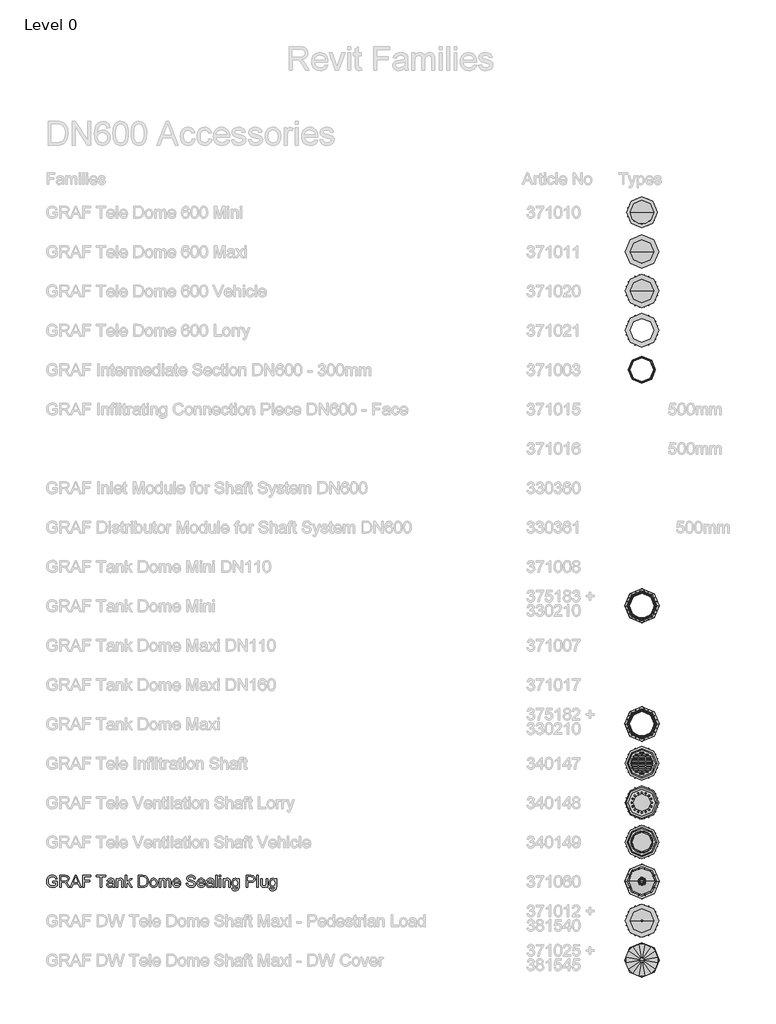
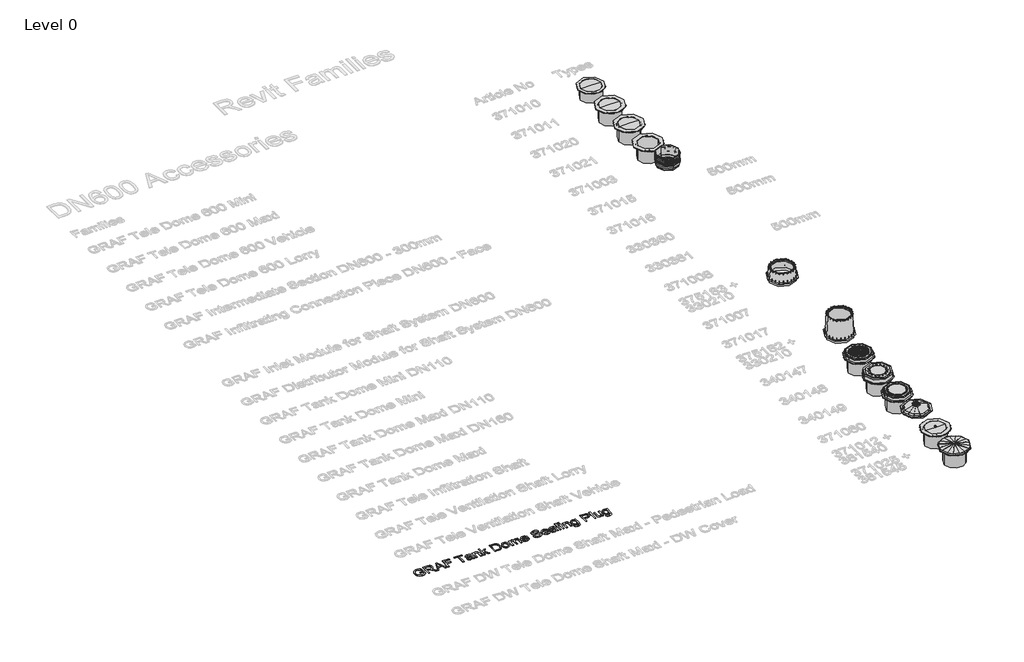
# One storey, part 1 of 25: 14 proxies.
"""IFC4 building model written with IfcOpenShell, lengths in millimetres."""

from ifc_helpers import new_model, si_unit, origin, origin_with_axes, place, context, project, spatial, polyline, outline, extrude, transform, mapped, element, save
from components import specialty_equipment_5184973a, specialty_equipment_2c5f0238, specialty_equipment_1d14676d, specialty_equipment_e8b2a2d0, specialty_equipment_d7f88c08, specialty_equipment_90b081b5, proxy_600_mini_8c9d897d, dome_600_vehicle_504724ee, infiltration_shaft_7ea02f98, intermediate_section_dn600_300mm_32245d74, tank_dome_mini_c82e10f8, tank_dome_sealing_plug_fa8a0619, tank_dome_sealing_plug_3985acf3, ventilation_shaft_vehicle_b4d13a4b

model = new_model("IFC4")

# Units and contexts
model_context = context("Model", 3, world=origin())
ifc_project = project(units=[si_unit("LENGTHUNIT", "METRE", prefix="MILLI")], contexts=[model_context])

# Site, building, storey
site = spatial("IfcSite", under=ifc_project)
building = spatial("IfcBuilding", under=site)
storey = spatial("IfcBuildingStorey", under=building, Name="Level 0", Elevation=0.0)

# Proxies
placement = place(None, origin())
specialty_equipment_shape = specialty_equipment_5184973a(model_context)
element("IfcBuildingElementProxy", 1, Name="GRAF Tele Dome 600 Maxi : 600 Maxi", ObjectType="GRAF Tele Dome 600 Maxi : 600 Maxi", at=placement, inside=storey, context=model_context, shape_type="MappedRepresentation", body=[
    mapped(specialty_equipment_shape, transform((-270.8351154, 6948.6272801, 0.0), x_axis=(1.0, 0.0, 0.0), y_axis=(0.0, 1.0, 0.0), z_axis=(0.0, 0.0, 1.0))),
])
specialty_equipment_2_shape = specialty_equipment_2c5f0238(model_context)
element("IfcBuildingElementProxy", 2, Name="GRAF Tele Dome 600 Lorry : Dome 600 Lorry", ObjectType="GRAF Tele Dome 600 Lorry : Dome 600 Lorry", at=placement, inside=storey, context=model_context, shape_type="MappedRepresentation", body=[
    mapped(specialty_equipment_2_shape, transform((-270.8351154, 4949.0232018, 0.0), x_axis=(1.0, 0.0, 0.0), y_axis=(0.0, 1.0, 0.0), z_axis=(0.0, 0.0, 1.0))),
])
specialty_equipment_3_shape = specialty_equipment_1d14676d(model_context)
element("IfcBuildingElementProxy", 3, Name="GRAF Tele Ventilation Shaft Lorry : Ventilation Shaft Lorry", ObjectType="GRAF Tele Ventilation Shaft Lorry : Ventilation Shaft Lorry", at=placement, inside=storey, context=model_context, shape_type="MappedRepresentation", body=[
    mapped(specialty_equipment_3_shape, transform((-270.8351154, -7050.9767982, 0.0), x_axis=(1.0, 0.0, 0.0), y_axis=(0.0, 1.0, 0.0), z_axis=(0.0, 0.0, 1.0))),
])
specialty_equipment_4_shape = specialty_equipment_e8b2a2d0(model_context)
element("IfcBuildingElementProxy", 4, Name="GRAF Tank Dome Maxi : Tank Dome Maxi", ObjectType="GRAF Tank Dome Maxi : Tank Dome Maxi", at=placement, inside=storey, context=model_context, shape_type="MappedRepresentation", body=[
    mapped(specialty_equipment_4_shape, transform((-270.8351154, -5050.9767982, 0.0), x_axis=(1.0, 0.0, 0.0), y_axis=(0.0, 1.0, 0.0), z_axis=(0.0, 0.0, 1.0))),
])
specialty_equipment_5_shape = specialty_equipment_d7f88c08(model_context)
element("IfcBuildingElementProxy", 5, Name="GRAF DW Tele Dome Shaft Maxi - Pedestrian Load : DW Tele Dome Shaft Maxi - Pedestrian Load", ObjectType="GRAF DW Tele Dome Shaft Maxi - Pedestrian Load : DW Tele Dome Shaft Maxi - Pedestrian Load", at=placement, inside=storey, context=model_context, shape_type="MappedRepresentation", body=[
    mapped(specialty_equipment_5_shape, transform((-270.8351154, -10050.9935269, 0.0), x_axis=(1.0, 0.0, 0.0), y_axis=(0.0, 1.0, 0.0), z_axis=(0.0, 0.0, 1.0))),
])
specialty_equipment_6_shape = specialty_equipment_90b081b5(model_context)
element("IfcBuildingElementProxy", 6, Name="GRAF DW Tele Dome Shaft Maxi - Cover : DW Tele Dome Shaft Maxi - Cover", ObjectType="GRAF DW Tele Dome Shaft Maxi - Cover : DW Tele Dome Shaft Maxi - Cover", at=placement, inside=storey, context=model_context, shape_type="MappedRepresentation", body=[
    mapped(specialty_equipment_6_shape, transform((-270.8351154, -11050.9935269, 0.0), x_axis=(1.0, 0.0, 0.0), y_axis=(0.0, 1.0, 0.0), z_axis=(0.0, 0.0, 1.0))),
])
element("IfcBuildingElementProxy", 7, Name="300mm Arial", ObjectType="300mm Arial", at=placement, inside=storey, context=model_context, shape_type="SweptSolid", body=[
    extrude(outline(polyline([(-15240.9940387, -9083.2545597), (-15240.9940387, -9045.5834434), (-15118.5629107, -9045.5834434), (-15118.5629107, -9158.2289103), (-15148.3153671, -9178.9222726), (-15179.0059225, -9193.7663111), (-15210.5610007, -9202.7058436), (-15242.9070251, -9205.6856877), (-15285.1674693, -9200.949207), (-15323.3628175, -9186.739765), (-15355.0926395, -9163.5540022), (-15377.9565055, -9131.8885595), (-15391.7796715, -9093.9047435), (-15396.3873935, -9051.7638609), (-15391.7980656, -9009.3194757), (-15378.0300819, -8969.8365406), (-15355.6536596, -8936.717964), (-15325.2390156, -8913.3666543), (-15288.1932987, -8899.5158972), (-15245.9236575, -8894.8989782), (-15214.8928112, -8897.5753197), (-15186.9889618, -8905.6043443), (-15163.4904994, -8918.4066377), (-15145.6758138, -8935.4027859), (-15132.4964413, -8957.4113262), (-15122.9039183, -8985.2507962), (-15157.6319786, -8995.0364573), (-15165.3850917, -8975.1800266), (-15174.8120678, -8960.1980323), (-15187.2832674, -8948.9040551), (-15204.169051, -8940.1116754), (-15224.3013932, -8934.4554897), (-15246.5122687, -8932.5700945), (-15272.5123287, -8934.6026425), (-15294.7415982, -8940.7002866), (-15313.1173039, -8950.0996716), (-15327.5566722, -8962.0374423), (-15346.9440533, -8991.0633317), (-15355.7732212, -9019.50061), (-15358.7162772, -9050.2187566), (-15355.175413, -9086.2436009), (-15344.5528204, -9115.8856927), (-15327.1703961, -9138.9334997), (-15303.3500369, -9155.1754898), (-15275.4737787, -9164.804801), (-15245.9236575, -9168.0145714), (-15219.831627, -9165.5957473), (-15194.3833899, -9158.3392749), (-15172.2828791, -9148.3420817), (-15156.234027, -9137.701095), (-15156.234027, -9083.2545597), (-15240.9940387, -9083.2545597)])), origin_with_axes(), (0.0, 0.0, 1.0), 10.0),
    extrude(outline(polyline([(-15057.3473467, -9200.9767982), (-15057.3473467, -8899.6078677), (-14927.4850024, -8899.6078677), (-14892.5821982, -8901.6404158), (-14867.1891434, -8907.7380598), (-14848.6294968, -8918.9952489), (-14834.2269167, -8936.5064318), (-14824.9838815, -8958.2206666), (-14821.9028698, -8982.087011), (-14827.0072325, -9011.7750881), (-14842.3203206, -9036.3863935), (-14853.9200997, -9046.4157764), (-14868.3019865, -9054.4310054), (-14905.4120827, -9064.4190016), (-14884.0013506, -9080.532233), (-14853.467145, -9119.3069952), (-14803.2144645, -9200.9767982), (-14846.9924219, -9200.9767982), (-14886.2086426, -9138.5104354), (-14914.5355562, -9097.1604991), (-14934.4379722, -9077.6259652), (-14952.3538253, -9070.4522663), (-14974.2060158, -9069.1278911), (-15019.6762304, -9069.1278911), (-15019.6762304, -9200.9767982), (-15057.3473467, -9200.9767982)]), holes=[polyline([(-15019.6762304, -9031.4567748), (-14935.3576771, -9031.4567748), (-14911.1418448, -9030.1232026), (-14892.3522719, -9026.1224859), (-14878.2072092, -9019.1879103), (-14867.9249074, -9009.0527613), (-14861.6617165, -8996.7930938), (-14859.5739861, -8983.4849626), (-14863.5563087, -8965.109257), (-14875.5032765, -8950.3020067), (-14896.058683, -8940.5347397), (-14925.8663217, -8937.278984), (-15019.6762304, -8937.278984), (-15019.6762304, -9031.4567748)])]), origin_with_axes(), (0.0, 0.0, 1.0), 10.0),
    extrude(outline(polyline([(-14791.0743586, -9200.9767982), (-14670.7769462, -8899.6078677), (-14638.6976362, -8899.6078677), (-14518.4002238, -9200.9767982), (-14558.2050557, -9200.9767982), (-14592.7123868, -9106.7990074), (-14716.835772, -9106.7990074), (-14751.2695268, -9200.9767982), (-14791.0743586, -9200.9767982)]), holes=[polyline([(-14703.003409, -9069.1278911), (-14606.4711735, -9069.1278911), (-14633.6208647, -8995.0364573), (-14654.7372912, -8937.278984), (-14673.499273, -8988.5617342), (-14703.003409, -9069.1278911)])]), origin_with_axes(), (0.0, 0.0, 1.0), 10.0),
    extrude(outline(polyline([(-14478.1539335, -9200.9767982), (-14478.1539335, -8899.6078677), (-14275.6716834, -8899.6078677), (-14275.6716834, -8937.278984), (-14440.4828172, -8937.278984), (-14440.4828172, -9026.7478853), (-14299.2161311, -9026.7478853), (-14299.2161311, -9064.4190016), (-14440.4828172, -9064.4190016), (-14440.4828172, -9200.9767982), (-14478.1539335, -9200.9767982)])), origin_with_axes(), (0.0, 0.0, 1.0), 10.0),
    extrude(outline(polyline([(-14030.8094274, -9200.9767982), (-14030.8094274, -8937.278984), (-14129.6961077, -8937.278984), (-14129.6961077, -8899.6078677), (-13894.2516308, -8899.6078677), (-13894.2516308, -8937.278984), (-13993.1383111, -8937.278984), (-13993.1383111, -9200.9767982), (-14030.8094274, -9200.9767982)])), origin_with_axes(), (0.0, 0.0, 1.0), 10.0),
    extrude(outline(polyline([(-13715.3138283, -9172.7234609), (-13733.312455, -9188.1561106), (-13751.8445105, -9198.2544714), (-13771.3330592, -9203.8278836), (-13792.2011653, -9205.6856877), (-13823.6826671, -9201.2159215), (-13846.905218, -9187.8066228), (-13861.2250247, -9167.4443543), (-13865.9982936, -9142.1156789), (-13864.1956718, -9126.4990883), (-13858.7878065, -9112.3172373), (-13850.4460822, -9100.1771315), (-13839.8418837, -9090.685776), (-13813.4647447, -9078.324941), (-13780.8703999, -9072.6595583), (-13742.353155, -9066.6998699), (-13715.5345575, -9059.710112), (-13715.3138283, -9051.3224025), (-13717.9073964, -9034.5101954), (-13725.6881006, -9023.5105237), (-13743.088919, -9015.3435434), (-13767.3323425, -9012.6212166), (-13789.7731442, -9014.4330355), (-13805.4449172, -9019.868492), (-13816.1318891, -9029.9208675), (-13823.6182877, -9045.5834434), (-13861.289404, -9040.8745539), (-13854.7503016, -9020.2731621), (-13844.9922316, -9004.0863544), (-13831.1046863, -8991.7071252), (-13812.1771577, -8982.5284694), (-13789.0281831, -8976.8446926), (-13762.4763001, -8974.9501003), (-13737.009669, -8976.6239634), (-13716.8221445, -8981.6455527), (-13701.601027, -8989.1963306), (-13691.0336167, -8998.4577598), (-13684.0254646, -9009.9080869), (-13679.482122, -9024.0255585), (-13677.642712, -9056.9877853), (-13677.642712, -9103.8559515), (-13675.7297257, -9169.3021584), (-13668.224933, -9200.9767982), (-13705.8960493, -9200.9767982), (-13715.3138283, -9172.7234609)]), holes=[polyline([(-13715.3138283, -9097.3812283), (-13776.0879339, -9108.932723), (-13808.4983377, -9115.0395641), (-13823.1768293, -9124.972378), (-13828.3271773, -9139.4669286), (-13825.522077, -9150.6689353), (-13817.1067764, -9159.8475911), (-13803.2652163, -9165.9728263), (-13784.1813378, -9168.0145714), (-13763.9478281, -9165.7612942), (-13746.0687631, -9159.0014625), (-13731.5742125, -9149.0410575), (-13721.4942459, -9137.1860602), (-13717.0244796, -9124.972378), (-13715.5345575, -9108.0498062), (-13715.3138283, -9097.3812283)])]), origin_with_axes(), (0.0, 0.0, 1.0), 10.0),
    extrude(outline(polyline([(-13625.8449271, -9200.9767982), (-13625.8449271, -8979.6589899), (-13588.1738108, -8979.6589899), (-13588.1738108, -9010.5610775), (-13575.0864088, -8994.981275), (-13559.3686506, -8983.8528446), (-13541.0205361, -8977.1757864), (-13520.0420653, -8974.9501003), (-13501.4732216, -8976.7435251), (-13484.4678764, -8982.1237992), (-13470.2860255, -8990.4195382), (-13460.1876647, -9000.9593574), (-13448.8936874, -9028.6608716), (-13446.9071247, -9065.0811892), (-13446.9071247, -9200.9767982), (-13484.578241, -9200.9767982), (-13484.578241, -9070.1579607), (-13488.9192485, -9036.8278519), (-13494.9249221, -9026.9042351), (-13504.2599277, -9019.2063044), (-13516.2252896, -9014.2674886), (-13530.122032, -9012.6212166), (-13552.1857546, -9016.3184307), (-13570.9937216, -9027.4100729), (-13578.5100106, -9036.4645685), (-13583.8787885, -9048.8391991), (-13588.1738108, -9083.5488653), (-13588.1738108, -9200.9767982), (-13625.8449271, -9200.9767982)])), origin_with_axes(), (0.0, 0.0, 1.0), 10.0),
    extrude(outline(polyline([(-13395.1093397, -9200.9767982), (-13395.1093397, -8899.6078677), (-13357.4382234, -8899.6078677), (-13357.4382234, -9061.549522), (-13272.9725173, -8979.6589899), (-13220.8804268, -8979.6589899), (-13306.3762025, -9062.5795916), (-13216.1715373, -9200.9767982), (-13260.1702239, -9200.9767982), (-13333.3787409, -9088.7727896), (-13357.4382234, -9112.0965081), (-13357.4382234, -9200.9767982), (-13395.1093397, -9200.9767982)])), origin_with_axes(), (0.0, 0.0, 1.0), 10.0),
    extrude(outline(polyline([(-13060.7781825, -9200.9767982), (-13060.7781825, -8899.6078677), (-12956.8147307, -8899.6078677), (-12903.030383, -8903.9488753), (-12879.0076887, -8912.3181907), (-12858.7373908, -8925.5067602), (-12837.8968757, -8948.4625967), (-12823.0528372, -8977.0102395), (-12814.1684871, -9010.5978657), (-12811.207037, -9048.6736522), (-12813.2119939, -9081.0196766), (-12819.2268645, -9109.484546), (-12828.3871262, -9133.7187724), (-12839.8282562, -9153.372868), (-12852.9984316, -9168.8882911), (-12867.3458295, -9180.7065002), (-12883.8177458, -9189.4712888), (-12903.3614768, -9195.8264502), (-12951.8115355, -9200.9767982), (-13060.7781825, -9200.9767982)]), holes=[polyline([(-13023.1070662, -9163.3056819), (-12956.4468487, -9163.3056819), (-12928.8740931, -9161.9445185), (-12907.9600017, -9157.8610283), (-12892.1778641, -9151.2943347), (-12880.0009701, -9142.4835609), (-12866.9135681, -9126.1771915), (-12857.0819218, -9105.069962), (-12850.9290954, -9079.069902), (-12848.8781533, -9048.085041), (-12852.8972641, -9007.0294103), (-12864.9545965, -8976.7159339), (-12882.7692821, -8955.893813), (-12904.0604526, -8943.3122488), (-12925.7287021, -8938.7873002), (-12957.4769183, -8937.278984), (-13023.1070662, -8937.278984), (-13023.1070662, -9163.3056819)])]), origin_with_axes(), (0.0, 0.0, 1.0), 10.0),
    extrude(outline(polyline([(-12773.5359207, -9090.317894), (-12771.4987741, -9061.6552881), (-12765.3873345, -9036.9566106), (-12755.2016018, -9016.2218617), (-12740.9415759, -8999.4510412), (-12726.5849811, -8988.7318796), (-12710.7384641, -8981.0753356), (-12693.4020251, -8976.4814091), (-12674.575664, -8974.9501003), (-12653.7926305, -8976.8148022), (-12635.0007584, -8982.4089078), (-12618.2000475, -8991.7324171), (-12603.3904979, -9004.7853302), (-12591.3032751, -9021.1261885), (-12582.6695445, -9040.3135338), (-12577.4893062, -9062.3473661), (-12575.7625601, -9087.2276853), (-12578.8159806, -9125.2850777), (-12587.9762423, -9154.2557848), (-12602.9766307, -9175.9516255), (-12623.5504313, -9192.1844185), (-12647.9869928, -9202.3103704), (-12674.575664, -9205.6856877), (-12695.6622001, -9203.8278836), (-12714.6288162, -9198.2544714), (-12731.4755123, -9188.965451), (-12746.2022884, -9175.9608225), (-12758.1607526, -9159.461315), (-12766.7025126, -9139.6876578), (-12771.8275687, -9116.6398508), (-12773.5359207, -9090.317894)]), holes=[polyline([(-12735.8648044, -9090.2443176), (-12731.5054027, -9124.3377815), (-12718.4271978, -9148.6271903), (-12698.7455111, -9163.1677261), (-12674.575664, -9168.0145714), (-12650.5161815, -9163.140135), (-12630.871283, -9148.5168257), (-12617.793078, -9123.9055202), (-12613.4336764, -9089.0670952), (-12617.8206692, -9055.9669127), (-12630.9816476, -9032.0085978), (-12650.6541372, -9017.4680619), (-12674.575664, -9012.6212166), (-12698.7455111, -9017.4496678), (-12718.4271978, -9031.9350214), (-12731.5054027, -9056.1692478), (-12735.8648044, -9090.2443176)])]), origin_with_axes(), (0.0, 0.0, 1.0), 10.0),
    extrude(outline(polyline([(-12533.3825542, -9200.9767982), (-12533.3825542, -8979.6589899), (-12495.7114379, -8979.6589899), (-12495.7114379, -9016.0793074), (-12484.3806725, -8999.3498737), (-12469.8125455, -8986.2440776), (-12452.5036976, -8977.7735947), (-12432.9507696, -8974.9501003), (-12411.9998899, -8977.828777), (-12395.2060768, -8986.4648068), (-12382.6613008, -9000.2879728), (-12374.4575323, -9018.7280578), (-12360.7263368, -8999.5752014), (-12345.0637609, -8985.8945897), (-12327.4698045, -8977.6862227), (-12307.9444676, -8974.9501003), (-12279.626751, -8979.50264), (-12258.6850684, -8993.1602591), (-12245.7448193, -9016.2908395), (-12241.4314029, -9049.2622634), (-12241.4314029, -9200.9767982), (-12279.1025192, -9200.9767982), (-12279.1025192, -9065.4490712), (-12282.5973981, -9033.9951606), (-12287.5086228, -9025.3223425), (-12295.2525388, -9018.5073286), (-12305.2129438, -9014.0927446), (-12316.7736355, -9012.6212166), (-12337.1818892, -9016.3920071), (-12353.8193524, -9027.7043784), (-12364.8834034, -9047.3308829), (-12368.5714204, -9076.0440726), (-12368.5714204, -9200.9767982), (-12406.2425367, -9200.9767982), (-12406.2425367, -9061.2552164), (-12408.4222375, -9039.9548489), (-12414.96134, -9024.7613225), (-12426.4668494, -9015.6562431), (-12443.545771, -9012.6212166), (-12458.0587157, -9014.6445676), (-12471.4312262, -9020.7146205), (-12482.4676861, -9030.6842226), (-12489.9724788, -9044.406221), (-12494.2766981, -9063.4441143), (-12495.7114379, -9089.3614008), (-12495.7114379, -9200.9767982), (-12533.3825542, -9200.9767982)])), origin_with_axes(), (0.0, 0.0, 1.0), 10.0),
    extrude(outline(polyline([(-12029.972832, -9135.0523446), (-11993.0374797, -9139.7612342), (-12006.3456109, -9167.5915071), (-12027.5815991, -9188.3952339), (-12056.2671976, -9201.3630743), (-12091.92416, -9205.6856877), (-12115.2984623, -9203.8209859), (-12136.1251817, -9198.2268803), (-12154.4043184, -9188.9033709), (-12170.1358722, -9175.8504579), (-12182.7864143, -9159.4314246), (-12191.8225158, -9140.0095545), (-12197.2441767, -9117.5848477), (-12199.051397, -9092.157304), (-12197.2257826, -9065.8675369), (-12191.7489394, -9042.6955698), (-12182.6208674, -9022.6414025), (-12169.8415666, -9005.7050351), (-12154.1513995, -8992.2497512), (-12136.2907286, -8982.638834), (-12116.259554, -8976.8722838), (-12094.0578756, -8974.9501003), (-12072.5712678, -8976.8676852), (-12053.1402007, -8982.6204399), (-12035.7646742, -8992.2083644), (-12020.4446884, -9005.6314587), (-12007.9389998, -9022.5310379), (-11999.0063651, -9042.548417), (-11993.6467843, -9065.6835959), (-11991.8602573, -9091.9365748), (-11992.0809865, -9102.0901179), (-12161.3802807, -9102.0901179), (-12154.8595723, -9130.2882728), (-12139.7120312, -9151.0184232), (-12117.8506436, -9163.7655344), (-12091.188396, -9168.0145714), (-12071.1388273, -9166.0464027), (-12054.2530437, -9160.1418967), (-12040.5310453, -9149.9331713), (-12029.972832, -9135.0523446)]), holes=[polyline([(-12161.3802807, -9064.4190016), (-12029.5313736, -9064.4190016), (-12034.6265393, -9044.5165856), (-12044.6145354, -9030.2795524), (-12066.5770906, -9017.0358006), (-12094.2050284, -9012.6212166), (-12119.5980831, -9016.1436868), (-12140.594948, -9026.7110971), (-12155.1906661, -9043.1830134), (-12161.3802807, -9064.4190016)])]), origin_with_axes(), (0.0, 0.0, 1.0), 10.0),
    extrude(outline(polyline([(-11845.8846816, -9097.3812283), (-11808.2135653, -9097.3812283), (-11803.8909519, -9118.2861227), (-11796.0734595, -9135.0891328), (-11783.8781714, -9148.4248552), (-11766.4221707, -9158.9278861), (-11745.085015, -9165.7429001), (-11721.2462617, -9168.0145714), (-11700.2585939, -9166.2947231), (-11681.8828882, -9161.1351781), (-11666.9928644, -9152.9681978), (-11656.4622423, -9142.2260435), (-11650.1990514, -9129.8927997), (-11648.111321, -9116.9525505), (-11649.6748195, -9104.3433951), (-11654.365315, -9093.444891), (-11663.8934586, -9084.1466736), (-11679.9699018, -9076.3383782), (-11734.8211073, -9061.9541922), (-11770.8275576, -9052.4352456), (-11793.8661675, -9043.3761514), (-11812.6189522, -9030.7026167), (-11825.9086893, -9015.3435434), (-11833.8273493, -8997.6300253), (-11836.4669026, -8977.8931563), (-11833.2019499, -8955.8294336), (-11823.4070917, -8935.2556331), (-11807.3398456, -8917.8180265), (-11785.2577288, -8905.1628859), (-11758.7518311, -8897.4649551), (-11729.413242, -8894.8989782), (-11697.6282376, -8897.5845168), (-11669.8163588, -8905.6411325), (-11646.9708869, -8918.9032784), (-11630.0851033, -8937.2054076), (-11619.3981313, -8959.407086), (-11615.1490943, -8984.3678794), (-11652.8202106, -8984.3678794), (-11659.7363921, -8961.8902895), (-11674.1573663, -8945.6666935), (-11696.6901385, -8935.8442443), (-11727.941714, -8932.5700945), (-11759.9290535, -8935.8074561), (-11781.8732145, -8945.5195407), (-11794.5651433, -8959.8117562), (-11798.7957863, -8976.7895103), (-11795.797548, -8991.2656668), (-11786.8028332, -9002.909132), (-11765.5392539, -9013.3201924), (-11725.2929636, -9023.9519821), (-11683.7590864, -9034.0503429), (-11658.6327461, -9042.8611167), (-11637.1576346, -9056.5279328), (-11622.1756404, -9073.3953223), (-11613.3740636, -9093.2793441), (-11610.4402047, -9115.9960573), (-11613.815522, -9139.2186082), (-11623.941474, -9161.0616017), (-11640.4041932, -9179.8603717), (-11662.7898126, -9193.9502521), (-11689.7095776, -9202.7518288), (-11719.7747337, -9205.6856877), (-11756.6824949, -9202.5219026), (-11787.0603506, -9193.0305471), (-11811.2577889, -9177.1748331), (-11829.6242975, -9154.9179724), (-11841.4149154, -9127.8050693), (-11845.8846816, -9097.3812283)])), origin_with_axes(), (0.0, 0.0, 1.0), 10.0),
    extrude(outline(polyline([(-11403.6905234, -9135.0523446), (-11366.7551711, -9139.7612342), (-11380.0633023, -9167.5915071), (-11401.2992905, -9188.3952339), (-11429.9848891, -9201.3630743), (-11465.6418514, -9205.6856877), (-11489.0161537, -9203.8209859), (-11509.8428732, -9198.2268803), (-11528.1220098, -9188.9033709), (-11543.8535636, -9175.8504579), (-11556.5041057, -9159.4314246), (-11565.5402072, -9140.0095545), (-11570.9618681, -9117.5848477), (-11572.7690884, -9092.157304), (-11570.943474, -9065.8675369), (-11565.4666308, -9042.6955698), (-11556.3385588, -9022.6414025), (-11543.559258, -9005.7050351), (-11527.8690909, -8992.2497512), (-11510.0084201, -8982.638834), (-11489.9772454, -8976.8722838), (-11467.775567, -8974.9501003), (-11446.2889592, -8976.8676852), (-11426.8578921, -8982.6204399), (-11409.4823656, -8992.2083644), (-11394.1623798, -9005.6314587), (-11381.6566912, -9022.5310379), (-11372.7240565, -9042.548417), (-11367.3644757, -9065.6835959), (-11365.5779487, -9091.9365748), (-11365.7986779, -9102.0901179), (-11535.0979721, -9102.0901179), (-11528.5772638, -9130.2882728), (-11513.4297226, -9151.0184232), (-11491.568335, -9163.7655344), (-11464.9060874, -9168.0145714), (-11444.8565187, -9166.0464027), (-11427.9707351, -9160.1418967), (-11414.2487367, -9149.9331713), (-11403.6905234, -9135.0523446)]), holes=[polyline([(-11535.0979721, -9064.4190016), (-11403.2490651, -9064.4190016), (-11408.3442307, -9044.5165856), (-11418.3322269, -9030.2795524), (-11440.294782, -9017.0358006), (-11467.9227198, -9012.6212166), (-11493.3157745, -9016.1436868), (-11514.3126394, -9026.7110971), (-11528.9083576, -9043.1830134), (-11535.0979721, -9064.4190016)])]), origin_with_axes(), (0.0, 0.0, 1.0), 10.0),
    extrude(outline(polyline([(-11186.6401463, -9172.7234609), (-11204.6387729, -9188.1561106), (-11223.1708284, -9198.2544714), (-11242.6593771, -9203.8278836), (-11263.5274833, -9205.6856877), (-11295.008985, -9201.2159215), (-11318.231536, -9187.8066228), (-11332.5513426, -9167.4443543), (-11337.3246115, -9142.1156789), (-11335.5219897, -9126.4990883), (-11330.1141244, -9112.3172373), (-11321.7724002, -9100.1771315), (-11311.1682017, -9090.685776), (-11284.7910626, -9078.324941), (-11252.1967178, -9072.6595583), (-11213.6794729, -9066.6998699), (-11186.8608755, -9059.710112), (-11186.6401463, -9051.3224025), (-11189.2337144, -9034.5101954), (-11197.0144186, -9023.5105237), (-11214.4152369, -9015.3435434), (-11238.6586604, -9012.6212166), (-11261.0994621, -9014.4330355), (-11276.7712351, -9019.868492), (-11287.4582071, -9029.9208675), (-11294.9446057, -9045.5834434), (-11332.615722, -9040.8745539), (-11326.0766195, -9020.2731621), (-11316.3185496, -9004.0863544), (-11302.4310043, -8991.7071252), (-11283.5034756, -8982.5284694), (-11260.3545011, -8976.8446926), (-11233.8026181, -8974.9501003), (-11208.335987, -8976.6239634), (-11188.1484625, -8981.6455527), (-11172.9273449, -8989.1963306), (-11162.3599346, -8998.4577598), (-11155.3517826, -9009.9080869), (-11150.80844, -9024.0255585), (-11148.96903, -9056.9877853), (-11148.96903, -9103.8559515), (-11147.0560436, -9169.3021584), (-11139.5512509, -9200.9767982), (-11177.2223672, -9200.9767982), (-11186.6401463, -9172.7234609)]), holes=[polyline([(-11186.6401463, -9097.3812283), (-11247.4142519, -9108.932723), (-11279.8246557, -9115.0395641), (-11294.5031473, -9124.972378), (-11299.6534952, -9139.4669286), (-11296.848395, -9150.6689353), (-11288.4330944, -9159.8475911), (-11274.5915343, -9165.9728263), (-11255.5076558, -9168.0145714), (-11235.2741461, -9165.7612942), (-11217.3950811, -9159.0014625), (-11202.9005305, -9149.0410575), (-11192.8205638, -9137.1860602), (-11188.3507976, -9124.972378), (-11186.8608755, -9108.0498062), (-11186.6401463, -9097.3812283)])]), origin_with_axes(), (0.0, 0.0, 1.0), 10.0),
    extrude(outline(polyline([(-11097.1712451, -9200.9767982), (-11097.1712451, -8899.6078677), (-11059.5001288, -8899.6078677), (-11059.5001288, -9200.9767982), (-11097.1712451, -9200.9767982)])), origin_with_axes(), (0.0, 0.0, 1.0), 10.0),
    extrude(outline(polyline([(-11002.9934543, -8937.278984), (-11002.9934543, -8899.6078677), (-10965.322338, -8899.6078677), (-10965.322338, -8937.278984), (-11002.9934543, -8937.278984)])), origin_with_axes(), (0.0, 0.0, 1.0), 10.0),
    extrude(outline(polyline([(-11002.9934543, -9200.9767982), (-11002.9934543, -8979.6589899), (-10965.322338, -8979.6589899), (-10965.322338, -9200.9767982), (-11002.9934543, -9200.9767982)])), origin_with_axes(), (0.0, 0.0, 1.0), 10.0),
    extrude(outline(polyline([(-10908.8156635, -9200.9767982), (-10908.8156635, -8979.6589899), (-10871.1445472, -8979.6589899), (-10871.1445472, -9010.5610775), (-10858.0571452, -8994.981275), (-10842.339387, -8983.8528446), (-10823.9912725, -8977.1757864), (-10803.0128017, -8974.9501003), (-10784.443958, -8976.7435251), (-10767.4386128, -8982.1237992), (-10753.2567619, -8990.4195382), (-10743.1584011, -9000.9593574), (-10731.8644239, -9028.6608716), (-10729.8778611, -9065.0811892), (-10729.8778611, -9200.9767982), (-10767.5489774, -9200.9767982), (-10767.5489774, -9070.1579607), (-10771.8899849, -9036.8278519), (-10777.8956585, -9026.9042351), (-10787.2306641, -9019.2063044), (-10799.196026, -9014.2674886), (-10813.0927684, -9012.6212166), (-10835.156491, -9016.3184307), (-10853.9644581, -9027.4100729), (-10861.4807471, -9036.4645685), (-10866.8495249, -9048.8391991), (-10871.1445472, -9083.5488653), (-10871.1445472, -9200.9767982), (-10908.8156635, -9200.9767982)])), origin_with_axes(), (0.0, 0.0, 1.0), 10.0),
    extrude(outline(polyline([(-10687.4978552, -9219.8123563), (-10649.8267389, -9224.5212459), (-10645.6696724, -9236.2934697), (-10637.6130567, -9244.3868736), (-10621.7757368, -9250.6776557), (-10601.0455864, -9252.7745831), (-10578.9358785, -9250.4017442), (-10562.4915533, -9243.2832276), (-10551.0872114, -9231.8788858), (-10544.0974535, -9216.6485712), (-10541.5222795, -9172.7234609), (-10554.0578585, -9185.084296), (-10568.0465714, -9193.9134639), (-10583.4884181, -9199.2109646), (-10600.3833988, -9200.9767982), (-10621.0376735, -9198.9212575), (-10639.2225404, -9192.7546356), (-10654.9379994, -9182.4769323), (-10668.1840505, -9168.0881478), (-10678.6939792, -9150.8252852), (-10686.2010712, -9131.9253477), (-10690.7053264, -9111.3883353), (-10692.2067448, -9089.214248), (-10689.5120092, -9058.7996041), (-10681.4278023, -9030.8313754), (-10668.2392328, -9007.1305779), (-10650.2314091, -8989.5182274), (-10628.0205337, -8978.5921321), (-10602.2228088, -8974.9501003), (-10584.6058597, -8977.0102395), (-10568.6167885, -8983.190657), (-10554.2555951, -8993.4913529), (-10541.5222795, -9007.9123271), (-10541.5222795, -8979.6589899), (-10503.8511632, -8979.6589899), (-10503.8511632, -9170.7368982), (-10506.4263372, -9214.8551464), (-10514.1518591, -9243.908627), (-10527.4599903, -9263.1764465), (-10546.7829921, -9277.9377116), (-10571.6978002, -9287.3187024), (-10601.7813504, -9290.4456994), (-10636.8313074, -9286.0403125), (-10664.4316541, -9272.8241518), (-10674.8266198, -9262.9028343), (-10682.1359752, -9250.7604292), (-10686.3597203, -9236.3969365), (-10687.4978552, -9219.8123563)]), holes=[polyline([(-10654.5356285, -9086.6390741), (-10650.5165177, -9121.1923905), (-10638.4591853, -9144.9483703), (-10620.3318, -9158.716354), (-10598.1025304, -9163.3056819), (-10576.0388077, -9158.7439451), (-10557.8194519, -9145.0587349), (-10545.5965726, -9121.6062577), (-10541.5222795, -9087.7427201), (-10545.7161343, -9055.0839959), (-10558.2976985, -9031.5671394), (-10576.7837688, -9017.3576973), (-10598.6911416, -9012.6212166), (-10620.2030413, -9017.2841209), (-10638.2384561, -9031.2728338), (-10650.4613354, -9054.4402024), (-10654.5356285, -9086.6390741)])]), origin_with_axes(), (0.0, 0.0, 1.0), 10.0),
    extrude(outline(polyline([(-10324.9133608, -9200.9767982), (-10324.9133608, -8899.6078677), (-10213.2243871, -8899.6078677), (-10168.1956308, -8902.4773473), (-10148.118471, -8907.8392274), (-10131.5913723, -8916.5672277), (-10118.2832411, -8929.0568214), (-10107.8629836, -8945.7034817), (-10101.1307431, -8965.3391832), (-10098.886663, -8986.7959006), (-10100.4018769, -9005.2957664), (-10104.9475188, -9022.3149072), (-10112.5235887, -9037.853323), (-10123.1300864, -9051.9110137), (-10137.6913157, -9063.5636759), (-10157.1315798, -9071.8870061), (-10181.450879, -9076.8810042), (-10210.6492131, -9078.5456702), (-10287.2422445, -9078.5456702), (-10287.2422445, -9200.9767982), (-10324.9133608, -9200.9767982)]), holes=[polyline([(-10287.2422445, -9040.8745539), (-10208.4419211, -9040.8745539), (-10175.038236, -9037.4164631), (-10152.9653162, -9027.0421909), (-10140.6596635, -9010.3955306), (-10136.5577793, -8988.1202758), (-10138.9766034, -8971.197704), (-10146.2330757, -8956.9238826), (-10157.4258854, -8946.1817283), (-10171.6537216, -8939.854158), (-10209.3248379, -8937.278984), (-10287.2422445, -8937.278984), (-10287.2422445, -9040.8745539)])]), origin_with_axes(), (0.0, 0.0, 1.0), 10.0),
    extrude(outline(polyline([(-10051.7977676, -9200.9767982), (-10051.7977676, -8899.6078677), (-10014.1266513, -8899.6078677), (-10014.1266513, -9200.9767982), (-10051.7977676, -9200.9767982)])), origin_with_axes(), (0.0, 0.0, 1.0), 10.0),
    extrude(outline(polyline([(-9816.3532907, -9200.9767982), (-9816.3532907, -9162.9377999), (-9829.9833186, -9181.6400008), (-9845.8574267, -9194.9987158), (-9863.9756149, -9203.0139447), (-9884.3378834, -9205.6856877), (-9902.6859979, -9203.8094895), (-9919.7649195, -9198.180895), (-9934.0939232, -9189.7196091), (-9944.192284, -9179.3453369), (-9955.4126848, -9151.6070344), (-9957.6199768, -9116.5846685), (-9957.6199768, -8979.6589899), (-9919.9488605, -8979.6589899), (-9919.9488605, -9098.8527563), (-9917.6679921, -9137.2596366), (-9912.1773534, -9150.0711271), (-9902.7687713, -9159.8108029), (-9890.0676454, -9165.9636293), (-9874.6993751, -9168.0145714), (-9858.448188, -9165.917644), (-9843.2454645, -9159.6268619), (-9830.7098855, -9149.7216392), (-9822.4601318, -9136.78139), (-9817.8800009, -9119.0586749), (-9816.3532907, -9094.8060544), (-9816.3532907, -8979.6589899), (-9778.6821744, -8979.6589899), (-9778.6821744, -9200.9767982), (-9816.3532907, -9200.9767982)])), origin_with_axes(), (0.0, 0.0, 1.0), 10.0),
    extrude(outline(polyline([(-9736.3021685, -9219.8123563), (-9698.6310522, -9224.5212459), (-9694.4739857, -9236.2934697), (-9686.41737, -9244.3868736), (-9670.5800501, -9250.6776557), (-9649.8498996, -9252.7745831), (-9627.7401917, -9250.4017442), (-9611.2958665, -9243.2832276), (-9599.8915247, -9231.8788858), (-9592.9017668, -9216.6485712), (-9590.3265928, -9172.7234609), (-9602.8621718, -9185.084296), (-9616.8508847, -9193.9134639), (-9632.2927314, -9199.2109646), (-9649.187712, -9200.9767982), (-9669.8419868, -9198.9212575), (-9688.0268537, -9192.7546356), (-9703.7423127, -9182.4769323), (-9716.9883638, -9168.0881478), (-9727.4982925, -9150.8252852), (-9735.0053845, -9131.9253477), (-9739.5096397, -9111.3883353), (-9741.011058, -9089.214248), (-9738.3163224, -9058.7996041), (-9730.2321156, -9030.8313754), (-9717.0435461, -9007.1305779), (-9699.0357224, -8989.5182274), (-9676.8248469, -8978.5921321), (-9651.027122, -8974.9501003), (-9633.410173, -8977.0102395), (-9617.4211018, -8983.190657), (-9603.0599084, -8993.4913529), (-9590.3265928, -9007.9123271), (-9590.3265928, -8979.6589899), (-9552.6554765, -8979.6589899), (-9552.6554765, -9170.7368982), (-9555.2306505, -9214.8551464), (-9562.9561724, -9243.908627), (-9576.2643036, -9263.1764465), (-9595.5873054, -9277.9377116), (-9620.5021135, -9287.3187024), (-9650.5856636, -9290.4456994), (-9685.6356207, -9286.0403125), (-9713.2359674, -9272.8241518), (-9723.630933, -9262.9028343), (-9730.9402884, -9250.7604292), (-9735.1640336, -9236.3969365), (-9736.3021685, -9219.8123563)]), holes=[polyline([(-9703.3399417, -9086.6390741), (-9699.3208309, -9121.1923905), (-9687.2634985, -9144.9483703), (-9669.1361132, -9158.716354), (-9646.9068437, -9163.3056819), (-9624.843121, -9158.7439451), (-9606.6237652, -9145.0587349), (-9594.4008859, -9121.6062577), (-9590.3265928, -9087.7427201), (-9594.5204476, -9055.0839959), (-9607.1020118, -9031.5671394), (-9625.5880821, -9017.3576973), (-9647.4954549, -9012.6212166), (-9669.0073545, -9017.2841209), (-9687.0427694, -9031.2728338), (-9699.2656486, -9054.4402024), (-9703.3399417, -9086.6390741)])]), origin_with_axes(), (0.0, 0.0, 1.0), 10.0),
])
proxy_600_mini_shape = proxy_600_mini_8c9d897d(model_context)
element("IfcBuildingElementProxy", 8, Name="GRAF Tele Dome 600 Mini : 600 Mini", ObjectType="GRAF Tele Dome 600 Mini : 600 Mini", at=placement, inside=storey, context=model_context, shape_type="MappedRepresentation", body=[
    mapped(proxy_600_mini_shape, transform((-270.8351154, 7948.6272801, 0.0), x_axis=(1.0, 0.0, 0.0), y_axis=(0.0, 1.0, 0.0), z_axis=(0.0, 0.0, 1.0))),
])
dome_600_vehicle_shape = dome_600_vehicle_504724ee(model_context)
element("IfcBuildingElementProxy", 9, Name="GRAF Tele Dome 600 Vehicle : Dome 600 Vehicle", ObjectType="GRAF Tele Dome 600 Vehicle : Dome 600 Vehicle", at=placement, inside=storey, context=model_context, shape_type="MappedRepresentation", body=[
    mapped(dome_600_vehicle_shape, transform((-270.8351154, 5949.0232018, 0.0), x_axis=(1.0, 0.0, 0.0), y_axis=(0.0, 1.0, 0.0), z_axis=(0.0, 0.0, 1.0))),
])
infiltration_shaft_shape = infiltration_shaft_7ea02f98(model_context)
element("IfcBuildingElementProxy", 10, Name="GRAF Tele Infiltration Shaft : Infiltration Shaft", ObjectType="GRAF Tele Infiltration Shaft : Infiltration Shaft", at=placement, inside=storey, context=model_context, shape_type="MappedRepresentation", body=[
    mapped(infiltration_shaft_shape, transform((-270.8351154, -6050.9767982, 0.0), x_axis=(1.0, 0.0, 0.0), y_axis=(0.0, 1.0, 0.0), z_axis=(0.0, 0.0, 1.0))),
])
intermediate_section_dn600_300mm_shape = intermediate_section_dn600_300mm_32245d74(model_context)
element("IfcBuildingElementProxy", 11, Name="GRAF Intermediate Section DN600 - 300mm : Intermediate Section DN600 - 300mm", ObjectType="GRAF Intermediate Section DN600 - 300mm : Intermediate Section DN600 - 300mm", at=placement, inside=storey, context=model_context, shape_type="MappedRepresentation", body=[
    mapped(intermediate_section_dn600_300mm_shape, transform((14.1648846, 3949.0232018, 0.0), x_axis=(1.0, 0.0, 0.0), y_axis=(0.0, 1.0, 0.0), z_axis=(0.0, 0.0, 1.0))),
])
tank_dome_mini_shape = tank_dome_mini_c82e10f8(model_context)
element("IfcBuildingElementProxy", 12, Name="GRAF Tank Dome Mini : Tank Dome Mini", ObjectType="GRAF Tank Dome Mini : Tank Dome Mini", at=placement, inside=storey, context=model_context, shape_type="MappedRepresentation", body=[
    mapped(tank_dome_mini_shape, transform((-270.8351154, -2050.9767982, 0.0), x_axis=(1.0, 0.0, 0.0), y_axis=(0.0, 1.0, 0.0), z_axis=(0.0, 0.0, 1.0))),
])
tank_dome_sealing_plug_shape = tank_dome_sealing_plug_fa8a0619(model_context)
tank_dome_sealing_plug_2_shape = tank_dome_sealing_plug_3985acf3(model_context)
element("IfcBuildingElementProxy", 13, Name="GRAF Tank Dome Sealing Plug : Tank Dome Sealing Plug", ObjectType="GRAF Tank Dome Sealing Plug : Tank Dome Sealing Plug", at=placement, inside=storey, context=model_context, shape_type="MappedRepresentation", body=[
    mapped(tank_dome_sealing_plug_shape, transform((-270.8351154, -9050.9767982, 0.0), x_axis=(1.0, 0.0, 0.0), y_axis=(0.0, 1.0, 0.0), z_axis=(0.0, 0.0, 1.0))),
    mapped(tank_dome_sealing_plug_2_shape, transform((-270.8351154, -9050.9767982, 0.0), x_axis=(1.0, 0.0, 0.0), y_axis=(0.0, 1.0, 0.0), z_axis=(0.0, 0.0, 1.0))),
])
ventilation_shaft_vehicle_shape = ventilation_shaft_vehicle_b4d13a4b(model_context)
element("IfcBuildingElementProxy", 14, Name="GRAF Tele Ventilation Shaft Vehicle : Ventilation Shaft Vehicle", ObjectType="GRAF Tele Ventilation Shaft Vehicle : Ventilation Shaft Vehicle", at=placement, inside=storey, context=model_context, shape_type="MappedRepresentation", body=[
    mapped(ventilation_shaft_vehicle_shape, transform((-270.8351154, -8050.9767982, 0.0), x_axis=(1.0, 0.0, 0.0), y_axis=(0.0, 1.0, 0.0), z_axis=(0.0, 0.0, 1.0))),
])

save(model, "model.ifc")
